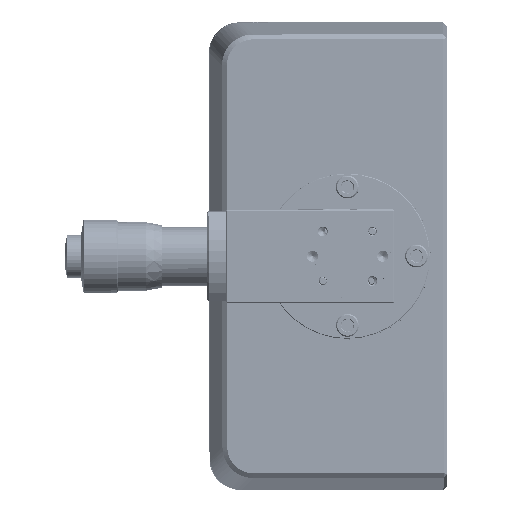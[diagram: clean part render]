
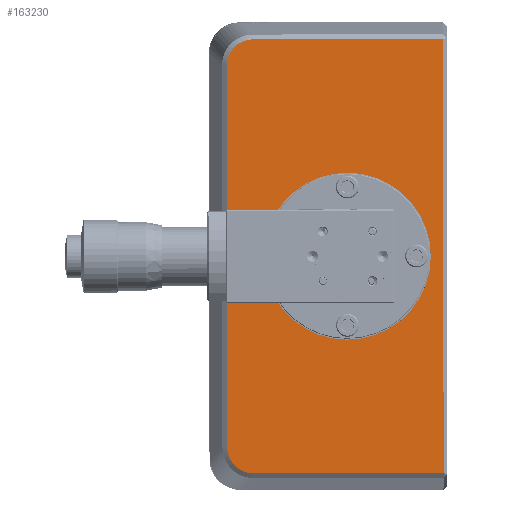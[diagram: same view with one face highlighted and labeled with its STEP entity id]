
A CAD part, left-side view. The second image highlights one B-rep face of the part: STEP entity #163230.
In plain terms, the highlighted planar face has unit normal (-1, -0.002, -0.001).
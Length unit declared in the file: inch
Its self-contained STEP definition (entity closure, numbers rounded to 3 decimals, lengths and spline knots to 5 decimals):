
#1093 = CARTESIAN_POINT ( 'NONE',  ( -0.09358, -6.70667, -2.97661 ) ) ;
#5203 = CARTESIAN_POINT ( 'NONE',  ( -0.09266, -7.62776, -1.98649 ) ) ;
#11813 = CARTESIAN_POINT ( 'NONE',  ( -0.09527, -6.74076, 0.37974 ) ) ;
#14048 = CARTESIAN_POINT ( 'NONE',  ( -0.0953, -6.711, 0.35182 ) ) ;
#14730 = DIRECTION ( 'NONE',  ( 0., 0.315, -0.949 ) ) ;
#15361 = LINE ( 'NONE', #221249, #195005 ) ;
#16874 = CARTESIAN_POINT ( 'NONE',  ( -0.09332, -6.84556, -3.05624 ) ) ;
#19074 = CARTESIAN_POINT ( 'NONE',  ( -0.09363, -6.68494, -2.9417 ) ) ;
#26128 = EDGE_CURVE ( 'NONE', #219655, #148412, #74793, .T. ) ;
#27634 = CARTESIAN_POINT ( 'NONE',  ( -0.09451, -6.66181, -1.31774 ) ) ;
#34918 = DIRECTION ( 'NONE',  ( 1., 0.002, 0.001 ) ) ;
#35803 = LINE ( 'NONE', #196571, #201964 ) ;
#35947 = CARTESIAN_POINT ( 'NONE',  ( -0.09337, -6.81845, -3.05092 ) ) ;
#37052 = CARTESIAN_POINT ( 'NONE',  ( -0.09352, -6.73459, -3.00637 ) ) ;
#40059 = DIRECTION ( 'NONE',  ( -0.001, 0.001, 1. ) ) ;
#41484 = AXIS2_PLACEMENT_3D ( 'NONE', #177439, #91935, #160573 ) ;
#45492 = AXIS2_PLACEMENT_3D ( 'NONE', #220634, #34918, #14730 ) ;
#45589 = LINE ( 'NONE', #46707, #86167 ) ;
#46118 = CARTESIAN_POINT ( 'NONE',  ( -0.09372, -6.6638, -2.8489 ) ) ;
#46707 = CARTESIAN_POINT ( 'NONE',  ( -0.0918, -8.39689, -1.31549 ) ) ;
#47580 = EDGE_CURVE ( 'NONE', #205643, #195738, #15361, .T. ) ;
#50106 = LINE ( 'NONE', #27634, #215527 ) ;
#52287 = VERTEX_POINT ( 'NONE', #134426 ) ;
#55892 = DIRECTION ( 'NONE',  ( -1., -0.002, -0.001 ) ) ;
#58308 = EDGE_CURVE ( 'NONE', #195738, #52287, #45589, .T. ) ;
#59301 = EDGE_CURVE ( 'NONE', #114049, #64920, #50106, .T. ) ;
#60529 = EDGE_CURVE ( 'NONE', #148412, #219655, #145631, .T. ) ;
#64920 = VERTEX_POINT ( 'NONE', #46118 ) ;
#65402 = EDGE_CURVE ( 'NONE', #125919, #114049, #117378, .T. ) ;
#65834 = CARTESIAN_POINT ( 'NONE',  ( -0.09531, -6.65983, 0.21342 ) ) ;
#67142 = DIRECTION ( 'NONE',  ( 0.002, -1., 0.001 ) ) ;
#68634 = CARTESIAN_POINT ( 'NONE',  ( -0.09368, -6.67056, -2.90338 ) ) ;
#72806 = ORIENTED_EDGE ( 'NONE', *, *, #58308, .T. ) ;
#74793 = CIRCLE ( 'NONE', #143074, 0.67 ) ;
#80459 = CARTESIAN_POINT ( 'NONE',  ( -0.09532, -6.65981, 0.22719 ) ) ;
#81583 = CARTESIAN_POINT ( 'NONE',  ( -0.09533, -6.68074, 0.30628 ) ) ;
#86167 = VECTOR ( 'NONE', #115389, 39.37008 ) ;
#86634 = CARTESIAN_POINT ( 'NONE',  ( -0.09362, -6.69139, -2.95375 ) ) ;
#87924 = ORIENTED_EDGE ( 'NONE', *, *, #59301, .T. ) ;
#91935 = DIRECTION ( 'NONE',  ( -1., -0.002, -0.001 ) ) ;
#93123 = DIRECTION ( 'NONE',  ( -0.002, 1., -0.001 ) ) ;
#101380 = FACE_BOUND ( 'NONE', #139719, .T. ) ;
#103502 = CARTESIAN_POINT ( 'NONE',  ( -0.0935, -6.74517, -3.015 ) ) ;
#112618 = EDGE_CURVE ( 'NONE', #64920, #205643, #156630, .T. ) ;
#114049 = VERTEX_POINT ( 'NONE', #219188 ) ;
#115389 = DIRECTION ( 'NONE',  ( -0.001, 0.001, 1. ) ) ;
#116182 = CARTESIAN_POINT ( 'NONE',  ( -0.09328, -6.87299, -3.05755 ) ) ;
#116476 = CARTESIAN_POINT ( 'NONE',  ( -0.09528, -6.73021, 0.37107 ) ) ;
#117378 = B_SPLINE_CURVE_WITH_KNOTS ( 'NONE', 3,
 ( #148010, #164852, #168209, #151374, #200835, #150244, #165967, #11813, #116476, #14048, #130014, #198604, #81583, #219949, #167089, #199721, #80459, #65834 ),
 .UNSPECIFIED., .F., .F.,
 ( 4, 2, 2, 2, 2, 2, 2, 2, 4 ),
 ( 0., 0.125, 0.25, 0.375, 0.5, 0.625, 0.75, 0.875, 1. ),
 .UNSPECIFIED. ) ;
#120380 = CARTESIAN_POINT ( 'NONE',  ( -0.09344, -6.78013, -3.03663 ) ) ;
#120463 = PLANE ( 'NONE',  #45492 ) ;
#121956 = ORIENTED_EDGE ( 'NONE', *, *, #60529, .F. ) ;
#122009 = EDGE_LOOP ( 'NONE', ( #215050, #169431, #72806, #168757, #157648, #87924 ) ) ;
#125919 = VERTEX_POINT ( 'NONE', #164092 ) ;
#130014 = CARTESIAN_POINT ( 'NONE',  ( -0.09531, -6.70237, 0.34124 ) ) ;
#134426 = CARTESIAN_POINT ( 'NONE',  ( -0.09271, -8.39463, 0.42459 ) ) ;
#138418 = CARTESIAN_POINT ( 'NONE',  ( -0.09366, -6.67453, -2.9165 ) ) ;
#139512 = CARTESIAN_POINT ( 'NONE',  ( -0.09328, -6.87299, -3.05755 ) ) ;
#139719 = EDGE_LOOP ( 'NONE', ( #201322, #121956 ) ) ;
#141698 = CARTESIAN_POINT ( 'NONE',  ( -0.09346, -6.76806, -3.03022 ) ) ;
#143074 = AXIS2_PLACEMENT_3D ( 'NONE', #213310, #55892, #40059 ) ;
#145631 = CIRCLE ( 'NONE', #41484, 0.67 ) ;
#148010 = CARTESIAN_POINT ( 'NONE',  ( -0.09509, -6.86848, 0.42261 ) ) ;
#148412 = VERTEX_POINT ( 'NONE', #5203 ) ;
#150244 = CARTESIAN_POINT ( 'NONE',  ( -0.09523, -6.77568, 0.40146 ) ) ;
#151374 = CARTESIAN_POINT ( 'NONE',  ( -0.09517, -6.81399, 0.41585 ) ) ;
#152048 = FACE_OUTER_BOUND ( 'NONE', #122009, .T. ) ;
#154193 = CARTESIAN_POINT ( 'NONE',  ( -0.0933, -6.85922, -3.05756 ) ) ;
#156630 = B_SPLINE_CURVE_WITH_KNOTS ( 'NONE', 3,
 ( #205889, #173238, #191217, #68634, #138418, #19074, #86634, #1093, #207003, #37052, #103502, #141698, #120380, #172130, #35947, #16874, #154193, #139512 ),
 .UNSPECIFIED., .F., .F.,
 ( 4, 2, 2, 2, 2, 2, 2, 2, 4 ),
 ( 0., 0.125, 0.25, 0.375, 0.5, 0.625, 0.75, 0.875, 1. ),
 .UNSPECIFIED. ) ;
#157648 = ORIENTED_EDGE ( 'NONE', *, *, #65402, .T. ) ;
#160573 = DIRECTION ( 'NONE',  ( -0.001, 0.001, 1. ) ) ;
#163230 = ADVANCED_FACE ( 'NONE', ( #101380, #152048 ), #120463, .F. ) ;
#164092 = CARTESIAN_POINT ( 'NONE',  ( -0.09509, -6.86848, 0.42261 ) ) ;
#164852 = CARTESIAN_POINT ( 'NONE',  ( -0.09511, -6.85475, 0.42259 ) ) ;
#165967 = CARTESIAN_POINT ( 'NONE',  ( -0.09524, -6.76362, 0.39501 ) ) ;
#167089 = CARTESIAN_POINT ( 'NONE',  ( -0.09533, -6.66645, 0.26795 ) ) ;
#168209 = CARTESIAN_POINT ( 'NONE',  ( -0.09513, -6.84106, 0.42123 ) ) ;
#168757 = ORIENTED_EDGE ( 'NONE', *, *, #188104, .T. ) ;
#169431 = ORIENTED_EDGE ( 'NONE', *, *, #47580, .T. ) ;
#172130 = CARTESIAN_POINT ( 'NONE',  ( -0.09339, -6.80536, -3.047 ) ) ;
#173238 = CARTESIAN_POINT ( 'NONE',  ( -0.09371, -6.66382, -2.86263 ) ) ;
#177439 = CARTESIAN_POINT ( 'NONE',  ( -0.093, -7.62689, -1.31649 ) ) ;
#188104 = EDGE_CURVE ( 'NONE', #52287, #125919, #35803, .T. ) ;
#191217 = CARTESIAN_POINT ( 'NONE',  ( -0.0937, -6.66518, -2.87631 ) ) ;
#195005 = VECTOR ( 'NONE', #67142, 39.37008 ) ;
#195738 = VERTEX_POINT ( 'NONE', #214827 ) ;
#196571 = CARTESIAN_POINT ( 'NONE',  ( -0.09414, -7.47463, 0.42339 ) ) ;
#198604 = CARTESIAN_POINT ( 'NONE',  ( -0.09532, -6.68715, 0.31835 ) ) ;
#199012 = CARTESIAN_POINT ( 'NONE',  ( -0.09335, -7.62602, -0.64649 ) ) ;
#199721 = CARTESIAN_POINT ( 'NONE',  ( -0.09532, -6.66113, 0.24085 ) ) ;
#200835 = CARTESIAN_POINT ( 'NONE',  ( -0.09519, -6.80087, 0.41188 ) ) ;
#201322 = ORIENTED_EDGE ( 'NONE', *, *, #26128, .F. ) ;
#201964 = VECTOR ( 'NONE', #93123, 39.37008 ) ;
#203149 = DIRECTION ( 'NONE',  ( 0.001, -0.001, -1. ) ) ;
#205643 = VERTEX_POINT ( 'NONE', #116182 ) ;
#205889 = CARTESIAN_POINT ( 'NONE',  ( -0.09372, -6.6638, -2.8489 ) ) ;
#207003 = CARTESIAN_POINT ( 'NONE',  ( -0.09356, -6.71534, -2.98716 ) ) ;
#213310 = CARTESIAN_POINT ( 'NONE',  ( -0.093, -7.62689, -1.31649 ) ) ;
#214827 = CARTESIAN_POINT ( 'NONE',  ( -0.09089, -8.39914, -3.05557 ) ) ;
#215050 = ORIENTED_EDGE ( 'NONE', *, *, #112618, .T. ) ;
#215527 = VECTOR ( 'NONE', #203149, 39.37008 ) ;
#219188 = CARTESIAN_POINT ( 'NONE',  ( -0.09531, -6.65983, 0.21342 ) ) ;
#219655 = VERTEX_POINT ( 'NONE', #199012 ) ;
#219949 = CARTESIAN_POINT ( 'NONE',  ( -0.09533, -6.67037, 0.28104 ) ) ;
#220634 = CARTESIAN_POINT ( 'NONE',  ( -0.09324, -7.47689, -1.31668 ) ) ;
#221249 = CARTESIAN_POINT ( 'NONE',  ( -0.09233, -7.47915, -3.05676 ) ) ;
